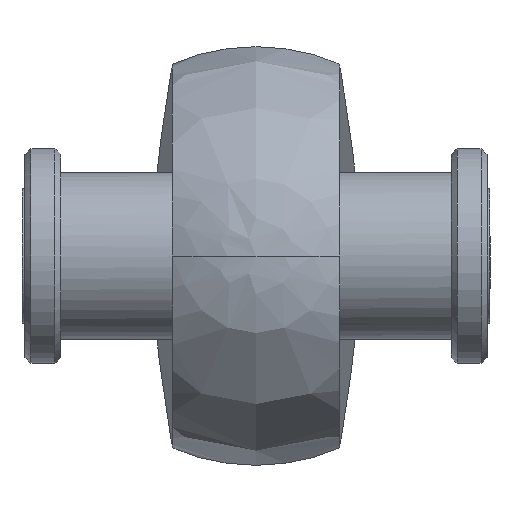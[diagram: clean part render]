
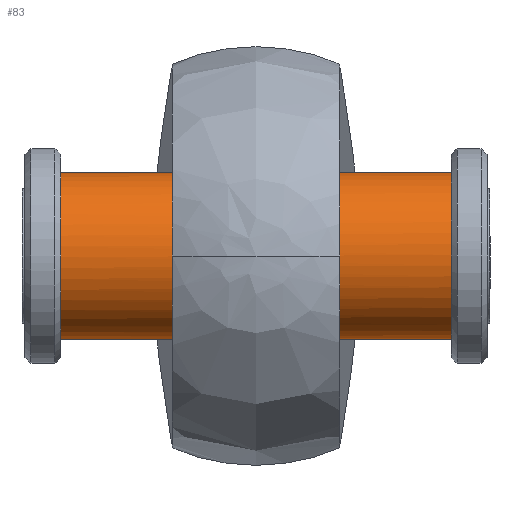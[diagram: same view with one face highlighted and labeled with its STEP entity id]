
A CAD part, left-side view. The second image highlights one B-rep face of the part: STEP entity #83.
In plain terms, the highlighted cylindrical face has radius 7 mm (diameter 14 mm), a full revolution.
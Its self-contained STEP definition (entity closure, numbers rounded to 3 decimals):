
#83=ADVANCED_FACE('',(#157),#1209,.T.);
#157=FACE_OUTER_BOUND('',#238,.T.);
#238=EDGE_LOOP('',(#506,#507,#508,#509));
#506=ORIENTED_EDGE('',*,*,#772,.T.);
#507=ORIENTED_EDGE('',*,*,#774,.T.);
#508=ORIENTED_EDGE('',*,*,#773,.T.);
#509=ORIENTED_EDGE('',*,*,#774,.F.);
#772=EDGE_CURVE('',#1124,#1124,#980,.T.);
#773=EDGE_CURVE('',#1125,#1125,#981,.T.);
#774=EDGE_CURVE('',#1124,#1125,#894,.T.);
#894=B_SPLINE_CURVE_WITH_KNOTS('',1,(#2243,#2244),.UNSPECIFIED.,.F.,.F.,
(2,2),(3.382,36.005),.UNSPECIFIED.);
#980=(
BOUNDED_CURVE()
B_SPLINE_CURVE(2,(#2225,#2226,#2227,#2228,#2229,#2230,#2231,#2232,#2233),
 .UNSPECIFIED.,.T.,.F.)
B_SPLINE_CURVE_WITH_KNOTS((3,2,2,2,3),(0.,10.996,21.991,
32.987,43.982),.UNSPECIFIED.)
CURVE()
GEOMETRIC_REPRESENTATION_ITEM()
RATIONAL_B_SPLINE_CURVE((1.,0.707,1.,0.707,1.,0.707,
1.,0.707,1.))
REPRESENTATION_ITEM('')
);
#981=(
BOUNDED_CURVE()
B_SPLINE_CURVE(2,(#2234,#2235,#2236,#2237,#2238,#2239,#2240,#2241,#2242),
 .UNSPECIFIED.,.T.,.F.)
B_SPLINE_CURVE_WITH_KNOTS((3,2,2,2,3),(0.,10.996,21.991,
32.987,43.982),.UNSPECIFIED.)
CURVE()
GEOMETRIC_REPRESENTATION_ITEM()
RATIONAL_B_SPLINE_CURVE((1.,0.707,1.,0.707,1.,0.707,
1.,0.707,1.))
REPRESENTATION_ITEM('')
);
#1124=VERTEX_POINT('',#2177);
#1125=VERTEX_POINT('',#2178);
#1209=CYLINDRICAL_SURFACE('',#1361,7.);
#1361=AXIS2_PLACEMENT_3D('',#2167,#1407,$);
#1407=DIRECTION('',(0.,-1.,0.));
#2167=CARTESIAN_POINT('',(0.,0.,0.));
#2177=CARTESIAN_POINT('',(7.,16.311,0.));
#2178=CARTESIAN_POINT('',(7.,-16.311,0.));
#2225=CARTESIAN_POINT('',(7.,16.311,0.));
#2226=CARTESIAN_POINT('',(7.,16.311,7.));
#2227=CARTESIAN_POINT('',(0.,16.311,7.));
#2228=CARTESIAN_POINT('',(-7.,16.311,7.));
#2229=CARTESIAN_POINT('',(-7.,16.311,0.));
#2230=CARTESIAN_POINT('',(-7.,16.311,-7.));
#2231=CARTESIAN_POINT('',(0.,16.311,-7.));
#2232=CARTESIAN_POINT('',(7.,16.311,-7.));
#2233=CARTESIAN_POINT('',(7.,16.311,0.));
#2234=CARTESIAN_POINT('',(7.,-16.311,0.));
#2235=CARTESIAN_POINT('',(7.,-16.311,-7.));
#2236=CARTESIAN_POINT('',(0.,-16.311,-7.));
#2237=CARTESIAN_POINT('',(-7.,-16.311,-7.));
#2238=CARTESIAN_POINT('',(-7.,-16.311,0.));
#2239=CARTESIAN_POINT('',(-7.,-16.311,7.));
#2240=CARTESIAN_POINT('',(0.,-16.311,7.));
#2241=CARTESIAN_POINT('',(7.,-16.311,7.));
#2242=CARTESIAN_POINT('',(7.,-16.311,0.));
#2243=CARTESIAN_POINT('',(7.,16.311,0.));
#2244=CARTESIAN_POINT('',(7.,-16.311,0.));
